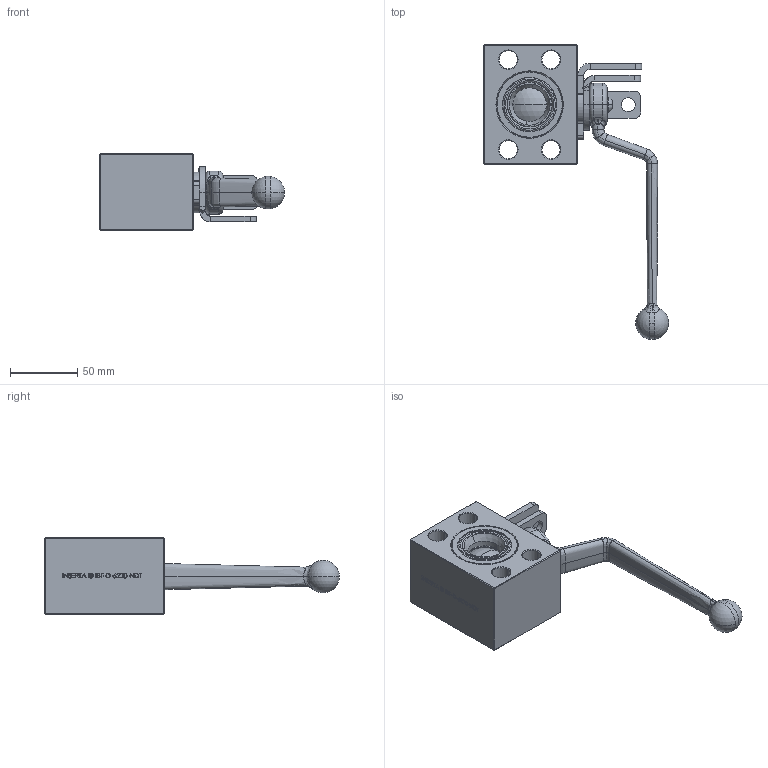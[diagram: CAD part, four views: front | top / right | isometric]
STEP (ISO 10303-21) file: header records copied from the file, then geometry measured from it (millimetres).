
FILE_DESCRIPTION (( 'STEP AP214' ), '1' );
FILE_NAME ('IBF-B-6220-NDT-Closed.STEP', '2026-02-16T16:50:22', ( '' ), ( '' ), 'SwSTEP 2.0', 'SolidWorks 2025', '' );
FILE_SCHEMA (( 'AUTOMOTIVE_DESIGN' ));
Products named in the file (1): IBF-B-6220-NDT-Closed
Bounding box: 137.37 x 218.57 x 56.77 mm (x, y, z)
Volume: 355923.7 mm3; surface area: 69795 mm2
Topology: 2 solids, 5 shells, 913 faces, 2473 edges, 1614 vertices
Faces by surface type: plane 465, bspline 199, cylinder 146, cone 59, torus 26, sphere 18
Entity records: 52276 total; most frequent: CARTESIAN_POINT 31191, ORIENTED_EDGE 4942, DIRECTION 3478, EDGE_CURVE 2471, VERTEX_POINT 1614, VECTOR 1236, LINE 1236, AXIS2_PLACEMENT_3D 1121
